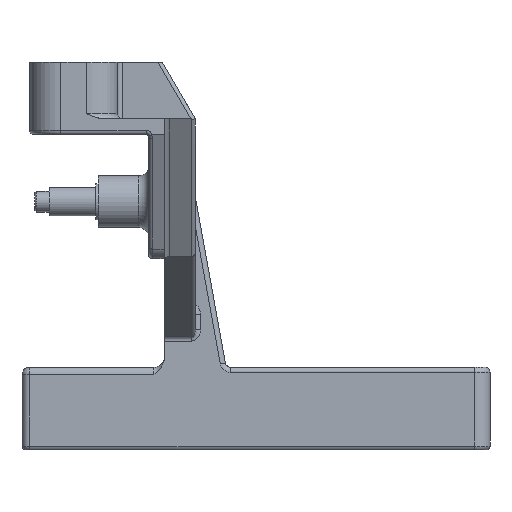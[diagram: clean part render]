
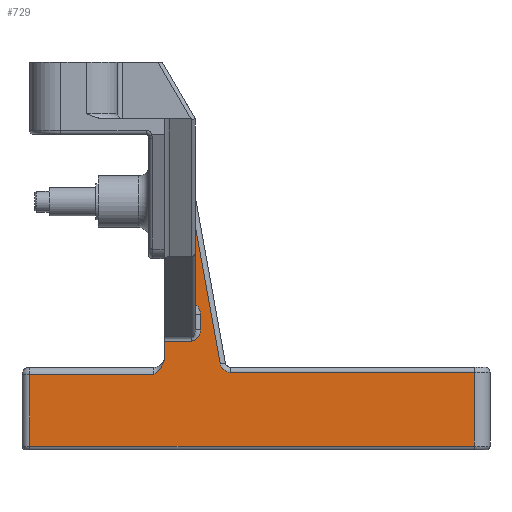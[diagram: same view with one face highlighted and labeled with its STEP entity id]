
A CAD part, left-side view. The second image highlights one B-rep face of the part: STEP entity #729.
In plain terms, the highlighted planar face has unit normal (-1, 0, 0).
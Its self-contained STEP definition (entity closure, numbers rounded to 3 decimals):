
#729 = ADVANCED_FACE( '', ( #1662 ), #1663, .T. );
#1662 = FACE_OUTER_BOUND( '', #3831, .T. );
#1663 = PLANE( '', #3832 );
#3831 = EDGE_LOOP( '', ( #8064, #8065, #8066, #8067, #8068, #8069, #8070, #8071, #8072, #8073, #8074, #8075, #8076, #8077, #8078, #8079, #8080, #8081, #8082 ) );
#3832 = AXIS2_PLACEMENT_3D( '', #8083, #8084, #8085 );
#8064 = ORIENTED_EDGE( '', *, *, #10061, .F. );
#8065 = ORIENTED_EDGE( '', *, *, #10487, .T. );
#8066 = ORIENTED_EDGE( '', *, *, #10522, .T. );
#8067 = ORIENTED_EDGE( '', *, *, #10523, .T. );
#8068 = ORIENTED_EDGE( '', *, *, #10524, .T. );
#8069 = ORIENTED_EDGE( '', *, *, #10318, .T. );
#8070 = ORIENTED_EDGE( '', *, *, #10003, .T. );
#8071 = ORIENTED_EDGE( '', *, *, #9883, .F. );
#8072 = ORIENTED_EDGE( '', *, *, #10021, .T. );
#8073 = ORIENTED_EDGE( '', *, *, #10374, .T. );
#8074 = ORIENTED_EDGE( '', *, *, #10144, .T. );
#8075 = ORIENTED_EDGE( '', *, *, #10525, .T. );
#8076 = ORIENTED_EDGE( '', *, *, #10526, .T. );
#8077 = ORIENTED_EDGE( '', *, *, #10527, .T. );
#8078 = ORIENTED_EDGE( '', *, *, #10528, .F. );
#8079 = ORIENTED_EDGE( '', *, *, #9847, .T. );
#8080 = ORIENTED_EDGE( '', *, *, #9962, .T. );
#8081 = ORIENTED_EDGE( '', *, *, #10529, .T. );
#8082 = ORIENTED_EDGE( '', *, *, #10530, .T. );
#8083 = CARTESIAN_POINT( '', ( -19., 45., -10. ) );
#8084 = DIRECTION( '', ( -1., 0., 0. ) );
#8085 = DIRECTION( '', ( 0., 0., 1. ) );
#9847 = EDGE_CURVE( '', #11099, #11097, #11100, .F. );
#9883 = EDGE_CURVE( '', #11160, #11162, #11163, .T. );
#9962 = EDGE_CURVE( '', #11097, #11303, #11306, .F. );
#10003 = EDGE_CURVE( '', #11373, #11162, #11374, .F. );
#10021 = EDGE_CURVE( '', #11160, #11401, #11402, .T. );
#10061 = EDGE_CURVE( '', #11466, #11007, #11467, .T. );
#10144 = EDGE_CURVE( '', #11599, #11597, #11600, .F. );
#10318 = EDGE_CURVE( '', #11850, #11373, #11853, .F. );
#10374 = EDGE_CURVE( '', #11401, #11599, #11925, .F. );
#10487 = EDGE_CURVE( '', #11466, #12078, #12080, .T. );
#10522 = EDGE_CURVE( '', #12078, #12125, #12126, .F. );
#10523 = EDGE_CURVE( '', #12125, #12127, #12128, .F. );
#10524 = EDGE_CURVE( '', #12127, #11850, #12129, .F. );
#10525 = EDGE_CURVE( '', #11597, #12130, #12131, .T. );
#10526 = EDGE_CURVE( '', #12130, #12132, #12133, .T. );
#10527 = EDGE_CURVE( '', #12132, #12134, #12135, .F. );
#10528 = EDGE_CURVE( '', #11099, #12134, #12136, .T. );
#10529 = EDGE_CURVE( '', #11303, #11351, #12137, .T. );
#10530 = EDGE_CURVE( '', #11351, #11007, #12138, .T. );
#11007 = VERTEX_POINT( '', #12740 );
#11097 = VERTEX_POINT( '', #12941 );
#11099 = VERTEX_POINT( '', #12943 );
#11100 = LINE( '', #12944, #12945 );
#11160 = VERTEX_POINT( '', #13022 );
#11162 = VERTEX_POINT( '', #13024 );
#11163 = LINE( '', #13025, #13026 );
#11303 = VERTEX_POINT( '', #13309 );
#11306 = LINE( '', #13312, #13313 );
#11351 = VERTEX_POINT( '', #13411 );
#11373 = VERTEX_POINT( '', #13440 );
#11374 = LINE( '', #13441, #13442 );
#11401 = VERTEX_POINT( '', #13481 );
#11402 = B_SPLINE_CURVE_WITH_KNOTS( '', 3, ( #13482, #13483, #13484, #13485, #13486, #13487, #13488, #13489, #13490, #13491 ), .UNSPECIFIED., .F., .F., ( 4, 2, 2, 2, 4 ), ( 0., 0.001, 0.002, 0.003, 0.004 ), .UNSPECIFIED. );
#11466 = VERTEX_POINT( '', #13567 );
#11467 = CIRCLE( '', #13568, 2. );
#11597 = VERTEX_POINT( '', #13970 );
#11599 = VERTEX_POINT( '', #13972 );
#11600 = LINE( '', #13973, #13974 );
#11850 = VERTEX_POINT( '', #14442 );
#11853 = ELLIPSE( '', #14445, 2.134, 1.75 );
#11925 = LINE( '', #14569, #14570 );
#12078 = VERTEX_POINT( '', #14852 );
#12080 = LINE( '', #14854, #14855 );
#12125 = VERTEX_POINT( '', #14916 );
#12126 = LINE( '', #14917, #14918 );
#12127 = VERTEX_POINT( '', #14919 );
#12128 = ELLIPSE( '', #14920, 2.134, 1.75 );
#12129 = LINE( '', #14921, #14922 );
#12130 = VERTEX_POINT( '', #14923 );
#12131 = LINE( '', #14924, #14925 );
#12132 = VERTEX_POINT( '', #14926 );
#12133 = LINE( '', #14927, #14928 );
#12134 = VERTEX_POINT( '', #14929 );
#12135 = LINE( '', #14930, #14931 );
#12136 = CIRCLE( '', #14932, 2. );
#12137 = LINE( '', #14933, #14934 );
#12138 = LINE( '', #14935, #14936 );
#12740 = CARTESIAN_POINT( '', ( -19., 22., 31.218 ) );
#12941 = CARTESIAN_POINT( '', ( -19., 18., 38.91 ) );
#12943 = CARTESIAN_POINT( '', ( -19., 12.165, 6.644 ) );
#12944 = CARTESIAN_POINT( '', ( -19., 17.984, 38.822 ) );
#12945 = VECTOR( '', #16033, 1000. );
#13022 = CARTESIAN_POINT( '', ( -19., 23., 7.662 ) );
#13024 = CARTESIAN_POINT( '', ( -19., 23., 11.06 ) );
#13025 = CARTESIAN_POINT( '', ( -19., 23., 0. ) );
#13026 = VECTOR( '', #16084, 1000. );
#13309 = CARTESIAN_POINT( '', ( -19., 18., 50. ) );
#13312 = CARTESIAN_POINT( '', ( -19., 18., 39.75 ) );
#13313 = VECTOR( '', #16194, 1000. );
#13411 = CARTESIAN_POINT( '', ( -19., 22., 50. ) );
#13440 = CARTESIAN_POINT( '', ( -19., 17.75, 11.06 ) );
#13441 = CARTESIAN_POINT( '', ( -19., 23., 11.06 ) );
#13442 = VECTOR( '', #16255, 1000. );
#13481 = CARTESIAN_POINT( '', ( -19., 25., 4.5 ) );
#13482 = CARTESIAN_POINT( '', ( -19., 23., 7.662 ) );
#13483 = CARTESIAN_POINT( '', ( -19., 23., 7.336 ) );
#13484 = CARTESIAN_POINT( '', ( -19., 23.064, 7.018 ) );
#13485 = CARTESIAN_POINT( '', ( -19., 23.292, 6.411 ) );
#13486 = CARTESIAN_POINT( '', ( -19., 23.451, 6.132 ) );
#13487 = CARTESIAN_POINT( '', ( -19., 23.832, 5.609 ) );
#13488 = CARTESIAN_POINT( '', ( -19., 24.051, 5.371 ) );
#13489 = CARTESIAN_POINT( '', ( -19., 24.513, 4.922 ) );
#13490 = CARTESIAN_POINT( '', ( -19., 24.757, 4.71 ) );
#13491 = CARTESIAN_POINT( '', ( -19., 25., 4.5 ) );
#13567 = CARTESIAN_POINT( '', ( -19., 20., 29.218 ) );
#13568 = AXIS2_PLACEMENT_3D( '', #16346, #16347, #16348 );
#13970 = CARTESIAN_POINT( '', ( -19., 49., -9.25 ) );
#13972 = CARTESIAN_POINT( '', ( -19., 49., 4.5 ) );
#13973 = CARTESIAN_POINT( '', ( -19., 49., -10. ) );
#13974 = VECTOR( '', #16458, 1000. );
#14442 = CARTESIAN_POINT( '', ( -19., 16., 13.193 ) );
#14445 = AXIS2_PLACEMENT_3D( '', #16694, #16695, #16696 );
#14569 = CARTESIAN_POINT( '', ( -19., 45., 4.5 ) );
#14570 = VECTOR( '', #16775, 1000. );
#14852 = CARTESIAN_POINT( '', ( -19., 20., 18.375 ) );
#14854 = CARTESIAN_POINT( '', ( -19., 20., -10. ) );
#14855 = VECTOR( '', #16914, 1000. );
#14916 = CARTESIAN_POINT( '', ( -19., 17.75, 18.375 ) );
#14917 = CARTESIAN_POINT( '', ( -19., 17.75, 18.375 ) );
#14918 = VECTOR( '', #16963, 1000. );
#14919 = CARTESIAN_POINT( '', ( -19., 16., 16.241 ) );
#14920 = AXIS2_PLACEMENT_3D( '', #16964, #16965, #16966 );
#14921 = CARTESIAN_POINT( '', ( -19., 16., -10. ) );
#14922 = VECTOR( '', #16967, 1000. );
#14923 = CARTESIAN_POINT( '', ( -19., -37., -9.25 ) );
#14924 = CARTESIAN_POINT( '', ( -19., -42., -9.25 ) );
#14925 = VECTOR( '', #16968, 1000. );
#14926 = CARTESIAN_POINT( '', ( -19., -37., 5. ) );
#14927 = CARTESIAN_POINT( '', ( -19., -37., -10. ) );
#14928 = VECTOR( '', #16969, 1000. );
#14929 = CARTESIAN_POINT( '', ( -19., 10.197, 5. ) );
#14930 = CARTESIAN_POINT( '', ( -19., 45., 5. ) );
#14931 = VECTOR( '', #16970, 1000. );
#14932 = AXIS2_PLACEMENT_3D( '', #16971, #16972, #16973 );
#14933 = CARTESIAN_POINT( '', ( -19., 45., 50. ) );
#14934 = VECTOR( '', #16974, 1000. );
#14935 = CARTESIAN_POINT( '', ( -19., 22., -4. ) );
#14936 = VECTOR( '', #16975, 1000. );
#16033 = DIRECTION( '', ( 0., -0.178, -0.984 ) );
#16084 = DIRECTION( '', ( 0., 0., 1. ) );
#16194 = DIRECTION( '', ( 0., 0., -1. ) );
#16255 = DIRECTION( '', ( 0., -1., 0. ) );
#16346 = CARTESIAN_POINT( '', ( -19., 22., 29.218 ) );
#16347 = DIRECTION( '', ( -1., 0., 0. ) );
#16348 = DIRECTION( '', ( 0., 0., 1. ) );
#16458 = DIRECTION( '', ( 0., 0., 1. ) );
#16694 = CARTESIAN_POINT( '', ( -19., 17.75, 13.193 ) );
#16695 = DIRECTION( '', ( -1., 0., 0. ) );
#16696 = DIRECTION( '', ( 0., 0., -1. ) );
#16775 = DIRECTION( '', ( 0., -1., 0. ) );
#16914 = DIRECTION( '', ( 0., 0., -1. ) );
#16963 = DIRECTION( '', ( 0., 1., 0. ) );
#16964 = CARTESIAN_POINT( '', ( -19., 17.75, 16.241 ) );
#16965 = DIRECTION( '', ( -1., 0., 0. ) );
#16966 = DIRECTION( '', ( 0., 0., 1. ) );
#16967 = DIRECTION( '', ( 0., 0., 1. ) );
#16968 = DIRECTION( '', ( 0., -1., 0. ) );
#16969 = DIRECTION( '', ( 0., 0., 1. ) );
#16970 = DIRECTION( '', ( 0., -1., 0. ) );
#16971 = CARTESIAN_POINT( '', ( -19., 10.197, 7. ) );
#16972 = DIRECTION( '', ( -1., 0., 0. ) );
#16973 = DIRECTION( '', ( 0., 0., 1. ) );
#16974 = DIRECTION( '', ( 0., 1., 0. ) );
#16975 = DIRECTION( '', ( 0., 0., -1. ) );
